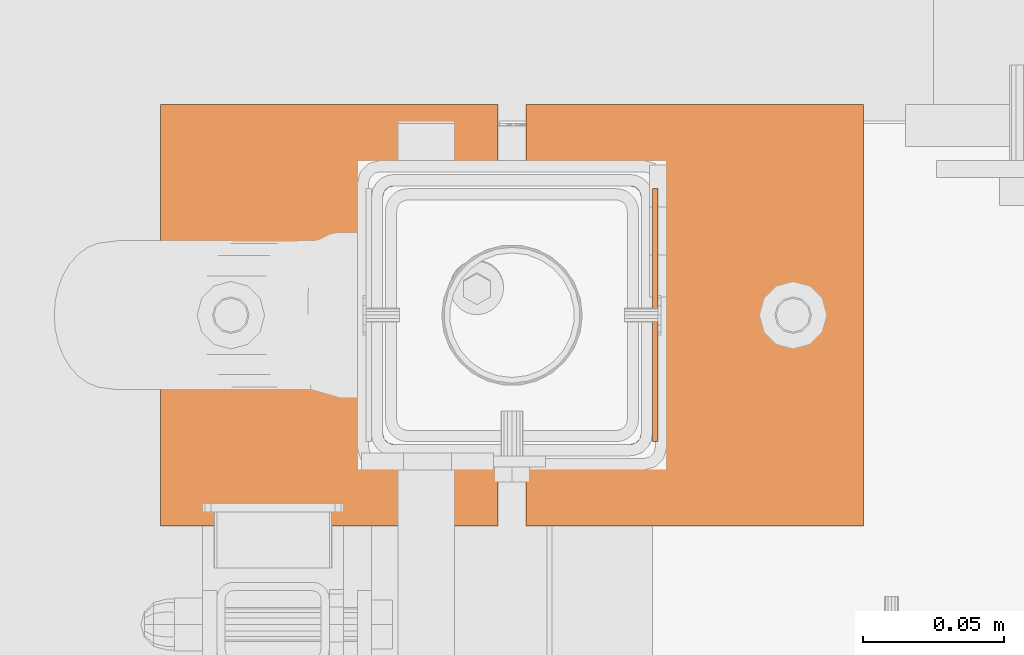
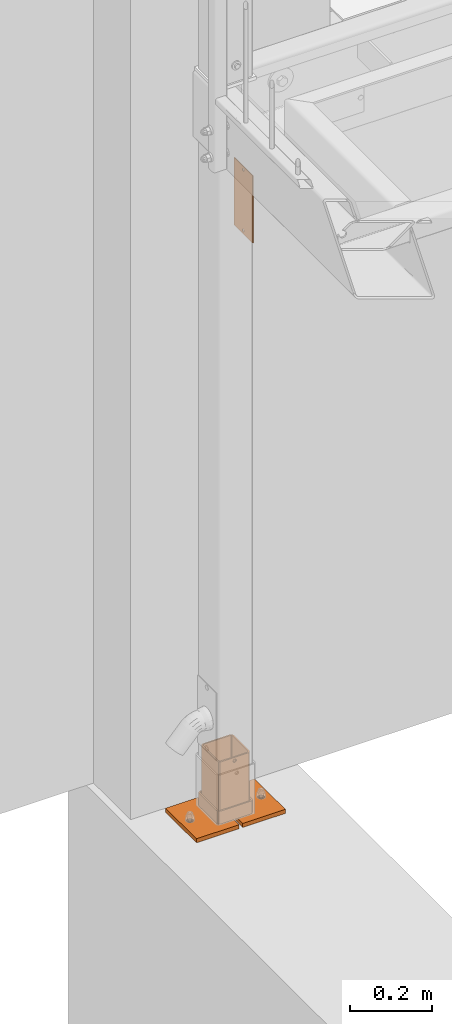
# One storey, part 93 of 116: 3 proxies.
"""IFC2X3 building model written with IfcOpenShell, lengths in millimetres."""

from ifc_helpers import new_model, entity, si_unit, converted_unit, origin_with_axes, place, context, project, spatial, faceted_brep, material, element, save


model = new_model("IFC2X3")

# Units and contexts
model_context = context("Model", 3, precision=1e-09, world=origin_with_axes())
ifc_project = project(units=[si_unit("LENGTHUNIT", "METRE", prefix="MILLI"), si_unit("AREAUNIT", "SQUARE_METRE"), si_unit("VOLUMEUNIT", "CUBIC_METRE"), converted_unit("PLANEANGLEUNIT", "DEGREE", entity("IfcPlaneAngleMeasure", 0.01745329), si_unit("PLANEANGLEUNIT", "RADIAN"), dimensions=[0, 0, 0, 0, 0, 0, 0])], contexts=[model_context])

# Site, building, storey
site_placement = place(None, origin_with_axes())
site = spatial("IfcSite", under=ifc_project, at=site_placement, Name="Site", CompositionType="ELEMENT")
building_placement = place(site_placement, origin_with_axes())
building = spatial("IfcBuilding", under=site, at=building_placement, Name="Struktur 1", CompositionType="ELEMENT")
storey_placement = place(building_placement, origin_with_axes())
storey = spatial("IfcBuildingStorey", under=building, at=storey_placement, Name="Default Storey", CompositionType="ELEMENT", Elevation=0.0)

# Proxies
ifc_material = material(Name="Kein")
proxy_1_placement = place(None, origin_with_axes())
element("IfcBuildingElementProxy", 1, at=proxy_1_placement, inside=storey, material=ifc_material, ObjectType="-", context=model_context, shape_type="Brep", body=[
    faceted_brep([(55293.049134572, 12007.822984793, -2185.0), (55293.049134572, 12007.822984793, -2165.0), (55291.585032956, 12006.358883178, -2165.0), (55291.585032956, 12006.358883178, -2185.0), (55291.049134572, 12011.287086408, -2185.0), (55295.049134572, 12012.358883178, -2185.0), (55379.049134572, 12012.358883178, -2185.0), (55383.049134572, 12011.287086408, -2185.0), (55385.977337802, 12008.358883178, -2185.0), (55387.049134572, 12004.358883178, -2185.0), (55387.049134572, 11920.358883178, -2185.0), (55385.977337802, 11916.358883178, -2185.0), (55383.049134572, 11913.430679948, -2185.0), (55379.049134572, 11912.358883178, -2185.0), (55295.049134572, 11912.358883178, -2185.0), (55291.049134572, 11913.430679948, -2185.0), (55288.120931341, 11916.358883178, -2185.0), (55287.049134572, 11920.358883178, -2185.0), (55287.049134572, 12004.358883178, -2185.0), (55288.120931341, 12008.358883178, -2185.0), (55379.049134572, 12008.358883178, -2185.0), (55295.049134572, 12008.358883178, -2185.0), (55291.049134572, 12004.358883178, -2185.0), (55291.049134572, 11920.358883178, -2185.0), (55291.585032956, 11918.358883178, -2185.0), (55293.049134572, 11916.894781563, -2185.0), (55295.049134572, 11916.358883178, -2185.0), (55379.049134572, 11916.358883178, -2185.0), (55381.049134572, 11916.894781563, -2185.0), (55382.513236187, 11918.358883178, -2185.0), (55383.049134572, 11920.358883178, -2185.0), (55383.049134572, 12004.358883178, -2185.0), (55382.513236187, 12006.358883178, -2185.0), (55381.049134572, 12007.822984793, -2185.0), (55291.049134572, 12011.287086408, -2165.0), (55288.120931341, 12008.358883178, -2165.0), (55287.049134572, 12004.358883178, -2165.0), (55287.049134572, 11920.358883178, -2165.0), (55288.120931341, 11916.358883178, -2165.0), (55291.049134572, 11913.430679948, -2165.0), (55295.049134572, 11912.358883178, -2165.0), (55379.049134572, 11912.358883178, -2165.0), (55383.049134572, 11913.430679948, -2165.0), (55385.977337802, 11916.358883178, -2165.0), (55387.049134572, 11920.358883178, -2165.0), (55387.049134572, 12004.358883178, -2165.0), (55385.977337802, 12008.358883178, -2165.0), (55383.049134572, 12011.287086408, -2165.0), (55379.049134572, 12012.358883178, -2165.0), (55295.049134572, 12012.358883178, -2165.0), (55291.049134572, 12004.358883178, -2165.0), (55295.049134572, 12008.358883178, -2165.0), (55379.049134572, 12008.358883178, -2165.0), (55381.049134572, 12007.822984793, -2165.0), (55382.513236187, 12006.358883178, -2165.0), (55383.049134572, 12004.358883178, -2165.0), (55383.049134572, 11920.358883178, -2165.0), (55382.513236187, 11918.358883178, -2165.0), (55381.049134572, 11916.894781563, -2165.0), (55379.049134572, 11916.358883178, -2165.0), (55295.049134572, 11916.358883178, -2165.0), (55293.049134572, 11916.894781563, -2165.0), (55291.585032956, 11918.358883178, -2165.0), (55291.049134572, 11920.358883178, -2165.0)], [[[0, 1, 2, 3]], [[4, 5, 6, 7, 8, 9, 10, 11, 12, 13, 14, 15, 16, 17, 18, 19], [20, 21, 0, 3, 22, 23, 24, 25, 26, 27, 28, 29, 30, 31, 32, 33]], [[34, 35, 36, 37, 38, 39, 40, 41, 42, 43, 44, 45, 46, 47, 48, 49], [50, 2, 1, 51, 52, 53, 54, 55, 56, 57, 58, 59, 60, 61, 62, 63]], [[34, 4, 19, 35]], [[1, 0, 21, 51]], [[4, 34, 49, 5]], [[35, 19, 18, 36]], [[3, 2, 50, 22]], [[21, 20, 52, 51]], [[49, 48, 6, 5]], [[18, 17, 37, 36]], [[50, 63, 23, 22]], [[52, 20, 33, 53]], [[6, 48, 47, 7]], [[37, 17, 16, 38]], [[23, 63, 62, 24]], [[53, 33, 32, 54]], [[7, 47, 46, 8]], [[38, 16, 15, 39]], [[24, 62, 61, 25]], [[54, 32, 31, 55]], [[25, 61, 60, 26]], [[8, 46, 45, 9]], [[39, 15, 14, 40]], [[60, 59, 27, 26]], [[31, 30, 56, 55]], [[45, 44, 10, 9]], [[58, 28, 27, 59]], [[14, 13, 41, 40]], [[28, 58, 57, 29]], [[29, 57, 56, 30]], [[10, 44, 43, 11]], [[41, 13, 12, 42]], [[11, 43, 42, 12]]]),
    faceted_brep([(55293.049134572, 12007.822984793, -2165.0), (55293.049134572, 12007.822984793, -2155.0), (55291.585032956, 12006.358883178, -2155.0), (55291.585032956, 12006.358883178, -2165.0), (55291.049134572, 12011.287086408, -2165.0), (55295.049134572, 12012.358883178, -2165.0), (55379.049134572, 12012.358883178, -2165.0), (55383.049134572, 12011.287086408, -2165.0), (55385.977337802, 12008.358883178, -2165.0), (55387.049134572, 12004.358883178, -2165.0), (55387.049134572, 11920.358883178, -2165.0), (55385.977337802, 11916.358883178, -2165.0), (55383.049134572, 11913.430679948, -2165.0), (55379.049134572, 11912.358883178, -2165.0), (55295.049134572, 11912.358883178, -2165.0), (55291.049134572, 11913.430679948, -2165.0), (55288.120931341, 11916.358883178, -2165.0), (55287.049134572, 11920.358883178, -2165.0), (55287.049134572, 12004.358883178, -2165.0), (55288.120931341, 12008.358883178, -2165.0), (55379.049134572, 12008.358883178, -2165.0), (55295.049134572, 12008.358883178, -2165.0), (55291.049134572, 12004.358883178, -2165.0), (55291.049134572, 11920.358883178, -2165.0), (55291.585032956, 11918.358883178, -2165.0), (55293.049134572, 11916.894781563, -2165.0), (55295.049134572, 11916.358883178, -2165.0), (55379.049134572, 11916.358883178, -2165.0), (55381.049134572, 11916.894781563, -2165.0), (55382.513236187, 11918.358883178, -2165.0), (55383.049134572, 11920.358883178, -2165.0), (55383.049134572, 12004.358883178, -2165.0), (55382.513236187, 12006.358883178, -2165.0), (55381.049134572, 12007.822984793, -2165.0), (55291.049134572, 12011.287086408, -2155.0), (55288.120931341, 12008.358883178, -2155.0), (55287.049134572, 12004.358883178, -2155.0), (55287.049134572, 11920.358883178, -2155.0), (55288.120931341, 11916.358883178, -2155.0), (55291.049134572, 11913.430679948, -2155.0), (55295.049134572, 11912.358883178, -2155.0), (55379.049134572, 11912.358883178, -2155.0), (55383.049134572, 11913.430679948, -2155.0), (55385.977337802, 11916.358883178, -2155.0), (55387.049134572, 11920.358883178, -2155.0), (55387.049134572, 12004.358883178, -2155.0), (55385.977337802, 12008.358883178, -2155.0), (55383.049134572, 12011.287086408, -2155.0), (55379.049134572, 12012.358883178, -2155.0), (55295.049134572, 12012.358883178, -2155.0), (55291.049134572, 12004.358883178, -2155.0), (55295.049134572, 12008.358883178, -2155.0), (55379.049134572, 12008.358883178, -2155.0), (55381.049134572, 12007.822984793, -2155.0), (55382.513236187, 12006.358883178, -2155.0), (55383.049134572, 12004.358883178, -2155.0), (55383.049134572, 11920.358883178, -2155.0), (55382.513236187, 11918.358883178, -2155.0), (55381.049134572, 11916.894781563, -2155.0), (55379.049134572, 11916.358883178, -2155.0), (55295.049134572, 11916.358883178, -2155.0), (55293.049134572, 11916.894781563, -2155.0), (55291.585032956, 11918.358883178, -2155.0), (55291.049134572, 11920.358883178, -2155.0)], [[[0, 1, 2, 3]], [[4, 5, 6, 7, 8, 9, 10, 11, 12, 13, 14, 15, 16, 17, 18, 19], [20, 21, 0, 3, 22, 23, 24, 25, 26, 27, 28, 29, 30, 31, 32, 33]], [[34, 35, 36, 37, 38, 39, 40, 41, 42, 43, 44, 45, 46, 47, 48, 49], [50, 2, 1, 51, 52, 53, 54, 55, 56, 57, 58, 59, 60, 61, 62, 63]], [[34, 4, 19, 35]], [[1, 0, 21, 51]], [[4, 34, 49, 5]], [[35, 19, 18, 36]], [[3, 2, 50, 22]], [[21, 20, 52, 51]], [[49, 48, 6, 5]], [[18, 17, 37, 36]], [[50, 63, 23, 22]], [[52, 20, 33, 53]], [[6, 48, 47, 7]], [[37, 17, 16, 38]], [[23, 63, 62, 24]], [[53, 33, 32, 54]], [[7, 47, 46, 8]], [[38, 16, 15, 39]], [[24, 62, 61, 25]], [[54, 32, 31, 55]], [[25, 61, 60, 26]], [[8, 46, 45, 9]], [[39, 15, 14, 40]], [[60, 59, 27, 26]], [[31, 30, 56, 55]], [[45, 44, 10, 9]], [[58, 28, 27, 59]], [[14, 13, 41, 40]], [[28, 58, 57, 29]], [[29, 57, 56, 30]], [[10, 44, 43, 11]], [[41, 13, 12, 42]], [[11, 43, 42, 12]]]),
    faceted_brep([(55293.049134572, 12007.822984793, -2155.0), (55293.049134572, 12007.822984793, -2150.0), (55291.585032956, 12006.358883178, -2150.0), (55291.585032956, 12006.358883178, -2155.0), (55291.049134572, 12011.287086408, -2155.0), (55295.049134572, 12012.358883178, -2155.0), (55379.049134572, 12012.358883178, -2155.0), (55383.049134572, 12011.287086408, -2155.0), (55385.977337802, 12008.358883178, -2155.0), (55387.049134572, 12004.358883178, -2155.0), (55387.049134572, 11920.358883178, -2155.0), (55385.977337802, 11916.358883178, -2155.0), (55383.049134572, 11913.430679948, -2155.0), (55379.049134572, 11912.358883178, -2155.0), (55295.049134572, 11912.358883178, -2155.0), (55291.049134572, 11913.430679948, -2155.0), (55288.120931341, 11916.358883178, -2155.0), (55287.049134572, 11920.358883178, -2155.0), (55287.049134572, 12004.358883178, -2155.0), (55288.120931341, 12008.358883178, -2155.0), (55379.049134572, 12008.358883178, -2155.0), (55295.049134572, 12008.358883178, -2155.0), (55291.049134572, 12004.358883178, -2155.0), (55291.049134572, 11920.358883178, -2155.0), (55291.585032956, 11918.358883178, -2155.0), (55293.049134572, 11916.894781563, -2155.0), (55295.049134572, 11916.358883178, -2155.0), (55379.049134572, 11916.358883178, -2155.0), (55381.049134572, 11916.894781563, -2155.0), (55382.513236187, 11918.358883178, -2155.0), (55383.049134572, 11920.358883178, -2155.0), (55383.049134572, 12004.358883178, -2155.0), (55382.513236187, 12006.358883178, -2155.0), (55381.049134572, 12007.822984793, -2155.0), (55291.049134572, 12011.287086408, -2150.0), (55288.120931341, 12008.358883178, -2150.0), (55287.049134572, 12004.358883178, -2150.0), (55287.049134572, 11920.358883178, -2150.0), (55288.120931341, 11916.358883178, -2150.0), (55291.049134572, 11913.430679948, -2150.0), (55295.049134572, 11912.358883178, -2150.0), (55379.049134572, 11912.358883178, -2150.0), (55383.049134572, 11913.430679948, -2150.0), (55385.977337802, 11916.358883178, -2150.0), (55387.049134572, 11920.358883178, -2150.0), (55387.049134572, 12004.358883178, -2150.0), (55385.977337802, 12008.358883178, -2150.0), (55383.049134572, 12011.287086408, -2150.0), (55379.049134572, 12012.358883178, -2150.0), (55295.049134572, 12012.358883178, -2150.0), (55291.049134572, 12004.358883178, -2150.0), (55295.049134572, 12008.358883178, -2150.0), (55379.049134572, 12008.358883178, -2150.0), (55381.049134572, 12007.822984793, -2150.0), (55382.513236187, 12006.358883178, -2150.0), (55383.049134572, 12004.358883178, -2150.0), (55383.049134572, 11920.358883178, -2150.0), (55382.513236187, 11918.358883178, -2150.0), (55381.049134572, 11916.894781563, -2150.0), (55379.049134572, 11916.358883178, -2150.0), (55295.049134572, 11916.358883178, -2150.0), (55293.049134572, 11916.894781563, -2150.0), (55291.585032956, 11918.358883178, -2150.0), (55291.049134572, 11920.358883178, -2150.0)], [[[0, 1, 2, 3]], [[4, 5, 6, 7, 8, 9, 10, 11, 12, 13, 14, 15, 16, 17, 18, 19], [20, 21, 0, 3, 22, 23, 24, 25, 26, 27, 28, 29, 30, 31, 32, 33]], [[34, 35, 36, 37, 38, 39, 40, 41, 42, 43, 44, 45, 46, 47, 48, 49], [50, 2, 1, 51, 52, 53, 54, 55, 56, 57, 58, 59, 60, 61, 62, 63]], [[34, 4, 19, 35]], [[1, 0, 21, 51]], [[4, 34, 49, 5]], [[35, 19, 18, 36]], [[3, 2, 50, 22]], [[21, 20, 52, 51]], [[49, 48, 6, 5]], [[18, 17, 37, 36]], [[50, 63, 23, 22]], [[52, 20, 33, 53]], [[6, 48, 47, 7]], [[37, 17, 16, 38]], [[23, 63, 62, 24]], [[53, 33, 32, 54]], [[7, 47, 46, 8]], [[38, 16, 15, 39]], [[24, 62, 61, 25]], [[54, 32, 31, 55]], [[25, 61, 60, 26]], [[8, 46, 45, 9]], [[39, 15, 14, 40]], [[60, 59, 27, 26]], [[31, 30, 56, 55]], [[45, 44, 10, 9]], [[58, 28, 27, 59]], [[14, 13, 41, 40]], [[28, 58, 57, 29]], [[29, 57, 56, 30]], [[10, 44, 43, 11]], [[41, 13, 12, 42]], [[11, 43, 42, 12]]]),
    faceted_brep([(55293.049134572, 12007.822984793, -2150.0), (55293.049134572, 12007.822984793, -2147.0), (55291.585032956, 12006.358883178, -2147.0), (55291.585032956, 12006.358883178, -2150.0), (55291.049134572, 12011.287086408, -2150.0), (55295.049134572, 12012.358883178, -2150.0), (55379.049134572, 12012.358883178, -2150.0), (55383.049134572, 12011.287086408, -2150.0), (55385.977337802, 12008.358883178, -2150.0), (55387.049134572, 12004.358883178, -2150.0), (55387.049134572, 11920.358883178, -2150.0), (55385.977337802, 11916.358883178, -2150.0), (55383.049134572, 11913.430679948, -2150.0), (55379.049134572, 11912.358883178, -2150.0), (55295.049134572, 11912.358883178, -2150.0), (55291.049134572, 11913.430679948, -2150.0), (55288.120931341, 11916.358883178, -2150.0), (55287.049134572, 11920.358883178, -2150.0), (55287.049134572, 12004.358883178, -2150.0), (55288.120931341, 12008.358883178, -2150.0), (55379.049134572, 12008.358883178, -2150.0), (55295.049134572, 12008.358883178, -2150.0), (55291.049134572, 12004.358883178, -2150.0), (55291.049134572, 11920.358883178, -2150.0), (55291.585032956, 11918.358883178, -2150.0), (55293.049134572, 11916.894781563, -2150.0), (55295.049134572, 11916.358883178, -2150.0), (55379.049134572, 11916.358883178, -2150.0), (55381.049134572, 11916.894781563, -2150.0), (55382.513236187, 11918.358883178, -2150.0), (55383.049134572, 11920.358883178, -2150.0), (55383.049134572, 12004.358883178, -2150.0), (55382.513236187, 12006.358883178, -2150.0), (55381.049134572, 12007.822984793, -2150.0), (55291.049134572, 12011.287086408, -2147.0), (55288.120931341, 12008.358883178, -2147.0), (55287.049134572, 12004.358883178, -2147.0), (55287.049134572, 11920.358883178, -2147.0), (55288.120931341, 11916.358883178, -2147.0), (55291.049134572, 11913.430679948, -2147.0), (55295.049134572, 11912.358883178, -2147.0), (55379.049134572, 11912.358883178, -2147.0), (55383.049134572, 11913.430679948, -2147.0), (55385.977337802, 11916.358883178, -2147.0), (55387.049134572, 11920.358883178, -2147.0), (55387.049134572, 12004.358883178, -2147.0), (55385.977337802, 12008.358883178, -2147.0), (55383.049134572, 12011.287086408, -2147.0), (55379.049134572, 12012.358883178, -2147.0), (55295.049134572, 12012.358883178, -2147.0), (55291.049134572, 12004.358883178, -2147.0), (55295.049134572, 12008.358883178, -2147.0), (55379.049134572, 12008.358883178, -2147.0), (55381.049134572, 12007.822984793, -2147.0), (55382.513236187, 12006.358883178, -2147.0), (55383.049134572, 12004.358883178, -2147.0), (55383.049134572, 11920.358883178, -2147.0), (55382.513236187, 11918.358883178, -2147.0), (55381.049134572, 11916.894781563, -2147.0), (55379.049134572, 11916.358883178, -2147.0), (55295.049134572, 11916.358883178, -2147.0), (55293.049134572, 11916.894781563, -2147.0), (55291.585032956, 11918.358883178, -2147.0), (55291.049134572, 11920.358883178, -2147.0)], [[[0, 1, 2, 3]], [[4, 5, 6, 7, 8, 9, 10, 11, 12, 13, 14, 15, 16, 17, 18, 19], [20, 21, 0, 3, 22, 23, 24, 25, 26, 27, 28, 29, 30, 31, 32, 33]], [[34, 35, 36, 37, 38, 39, 40, 41, 42, 43, 44, 45, 46, 47, 48, 49], [50, 2, 1, 51, 52, 53, 54, 55, 56, 57, 58, 59, 60, 61, 62, 63]], [[34, 4, 19, 35]], [[1, 0, 21, 51]], [[4, 34, 49, 5]], [[35, 19, 18, 36]], [[3, 2, 50, 22]], [[21, 20, 52, 51]], [[49, 48, 6, 5]], [[18, 17, 37, 36]], [[50, 63, 23, 22]], [[52, 20, 33, 53]], [[6, 48, 47, 7]], [[37, 17, 16, 38]], [[23, 63, 62, 24]], [[53, 33, 32, 54]], [[7, 47, 46, 8]], [[38, 16, 15, 39]], [[24, 62, 61, 25]], [[54, 32, 31, 55]], [[25, 61, 60, 26]], [[8, 46, 45, 9]], [[39, 15, 14, 40]], [[60, 59, 27, 26]], [[31, 30, 56, 55]], [[45, 44, 10, 9]], [[58, 28, 27, 59]], [[14, 13, 41, 40]], [[28, 58, 57, 29]], [[29, 57, 56, 30]], [[10, 44, 43, 11]], [[41, 13, 12, 42]], [[11, 43, 42, 12]]]),
])
proxy_2_placement = place(None, origin_with_axes())
element("IfcBuildingElementProxy", 2, at=proxy_2_placement, inside=storey, material=ifc_material, ObjectType="-", context=model_context, shape_type="Brep", body=[
    faceted_brep([(55229.048134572, 11962.358883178, -2185.0), (55229.048134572, 11962.358883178, -2197.0), (55230.120065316, 11966.359383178, -2197.0), (55230.120065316, 11966.359383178, -2185.0), (55233.048634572, 11969.287952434, -2197.0), (55233.048634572, 11969.287952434, -2185.0), (55230.120065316, 11958.358383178, -2185.0), (55230.120065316, 11958.358383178, -2197.0), (55233.048634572, 11955.429813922, -2185.0), (55233.048634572, 11955.429813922, -2197.0), (55212.049134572, 11887.358883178, -2185.0), (55332.049134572, 11887.358883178, -2185.0), (55332.049134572, 12037.358883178, -2185.0), (55212.049134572, 12037.358883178, -2185.0), (55237.049134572, 11970.359883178, -2185.0), (55241.049634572, 11969.287952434, -2185.0), (55243.978203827, 11966.359383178, -2185.0), (55245.050134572, 11962.358883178, -2185.0), (55243.978203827, 11958.358383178, -2185.0), (55241.049634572, 11955.429813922, -2185.0), (55237.049134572, 11954.357883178, -2185.0), (55237.049134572, 11970.359883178, -2197.0), (55212.049134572, 12037.358883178, -2197.0), (55332.049134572, 12037.358883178, -2197.0), (55332.049134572, 11887.358883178, -2197.0), (55212.049134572, 11887.358883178, -2197.0), (55241.049634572, 11969.287952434, -2197.0), (55237.049134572, 11954.357883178, -2197.0), (55241.049634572, 11955.429813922, -2197.0), (55243.978203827, 11958.358383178, -2197.0), (55245.050134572, 11962.358883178, -2197.0), (55243.978203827, 11966.359383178, -2197.0)], [[[0, 1, 2, 3]], [[3, 2, 4, 5]], [[1, 0, 6, 7]], [[7, 6, 8, 9]], [[10, 11, 12, 13], [8, 6, 0, 3, 5, 14, 15, 16, 17, 18, 19, 20]], [[5, 4, 21, 14]], [[22, 23, 24, 25], [26, 21, 4, 2, 1, 7, 9, 27, 28, 29, 30, 31]], [[9, 8, 20, 27]], [[14, 21, 26, 15]], [[10, 13, 22, 25]], [[27, 20, 19, 28]], [[25, 24, 11, 10]], [[13, 12, 23, 22]], [[15, 26, 31, 16]], [[24, 23, 12, 11]], [[28, 19, 18, 29]], [[16, 31, 30, 17]], [[29, 18, 17, 30]]]),
    faceted_brep([(55429.048134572, 11962.358883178, -2185.0), (55429.048134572, 11962.358883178, -2197.0), (55430.120065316, 11966.359383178, -2197.0), (55430.120065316, 11966.359383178, -2185.0), (55433.048634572, 11969.287952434, -2197.0), (55433.048634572, 11969.287952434, -2185.0), (55342.049134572, 11887.358883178, -2185.0), (55462.049134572, 11887.358883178, -2185.0), (55462.049134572, 12037.358883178, -2185.0), (55342.049134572, 12037.358883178, -2185.0), (55433.048634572, 11955.429813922, -2185.0), (55430.120065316, 11958.358383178, -2185.0), (55437.049134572, 11970.359883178, -2185.0), (55441.049634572, 11969.287952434, -2185.0), (55443.978203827, 11966.359383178, -2185.0), (55445.050134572, 11962.358883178, -2185.0), (55443.978203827, 11958.358383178, -2185.0), (55441.049634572, 11955.429813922, -2185.0), (55437.049134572, 11954.357883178, -2185.0), (55430.120065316, 11958.358383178, -2197.0), (55437.049134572, 11970.359883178, -2197.0), (55342.049134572, 12037.358883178, -2197.0), (55462.049134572, 12037.358883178, -2197.0), (55462.049134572, 11887.358883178, -2197.0), (55342.049134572, 11887.358883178, -2197.0), (55433.048634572, 11955.429813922, -2197.0), (55437.049134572, 11954.357883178, -2197.0), (55441.049634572, 11955.429813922, -2197.0), (55443.978203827, 11958.358383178, -2197.0), (55445.050134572, 11962.358883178, -2197.0), (55443.978203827, 11966.359383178, -2197.0), (55441.049634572, 11969.287952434, -2197.0)], [[[0, 1, 2, 3]], [[3, 2, 4, 5]], [[6, 7, 8, 9], [10, 11, 0, 3, 5, 12, 13, 14, 15, 16, 17, 18]], [[1, 0, 11, 19]], [[5, 4, 20, 12]], [[21, 22, 23, 24], [20, 4, 2, 1, 19, 25, 26, 27, 28, 29, 30, 31]], [[19, 11, 10, 25]], [[12, 20, 31, 13]], [[21, 24, 6, 9]], [[9, 8, 22, 21]], [[24, 23, 7, 6]], [[25, 10, 18, 26]], [[13, 31, 30, 14]], [[26, 18, 17, 27]], [[8, 7, 23, 22]], [[14, 30, 29, 15]], [[27, 17, 16, 28]], [[15, 29, 28, 16]]]),
    faceted_brep([(55293.120931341, 12003.358883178, -2185.0), (55293.120931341, 12003.358883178, -2005.0), (55296.049134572, 12006.287086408, -2005.0), (55296.049134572, 12006.287086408, -2185.0), (55292.049134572, 11999.358883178, -2005.0), (55292.049134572, 11925.358883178, -2005.0), (55293.120931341, 11921.358883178, -2005.0), (55296.049134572, 11918.430679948, -2005.0), (55300.049134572, 11917.358883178, -2005.0), (55374.049134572, 11917.358883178, -2005.0), (55378.049134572, 11918.430679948, -2005.0), (55380.977337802, 11921.358883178, -2005.0), (55382.049134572, 11925.358883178, -2005.0), (55382.049134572, 11999.358883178, -2005.0), (55380.977337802, 12003.358883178, -2005.0), (55378.049134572, 12006.287086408, -2005.0), (55374.049134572, 12007.358883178, -2005.0), (55300.049134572, 12007.358883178, -2005.0), (55296.049134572, 11999.358883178, -2005.0), (55296.585032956, 12001.358883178, -2005.0), (55298.049134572, 12002.822984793, -2005.0), (55300.049134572, 12003.358883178, -2005.0), (55374.049134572, 12003.358883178, -2005.0), (55376.049134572, 12002.822984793, -2005.0), (55377.513236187, 12001.358883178, -2005.0), (55378.049134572, 11999.358883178, -2005.0), (55378.049134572, 11925.358883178, -2005.0), (55377.513236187, 11923.358883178, -2005.0), (55376.049134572, 11921.894781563, -2005.0), (55374.049134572, 11921.358883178, -2005.0), (55300.049134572, 11921.358883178, -2005.0), (55298.049134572, 11921.894781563, -2005.0), (55296.585032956, 11923.358883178, -2005.0), (55296.049134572, 11925.358883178, -2005.0), (55298.049134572, 12002.822984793, -2185.0), (55296.585032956, 12001.358883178, -2185.0), (55292.049134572, 11925.358883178, -2185.0), (55292.049134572, 11999.358883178, -2185.0), (55300.049134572, 12007.358883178, -2185.0), (55374.049134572, 12007.358883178, -2185.0), (55378.049134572, 12006.287086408, -2185.0), (55380.977337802, 12003.358883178, -2185.0), (55382.049134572, 11999.358883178, -2185.0), (55382.049134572, 11925.358883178, -2185.0), (55380.977337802, 11921.358883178, -2185.0), (55378.049134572, 11918.430679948, -2185.0), (55374.049134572, 11917.358883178, -2185.0), (55300.049134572, 11917.358883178, -2185.0), (55296.049134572, 11918.430679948, -2185.0), (55293.120931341, 11921.358883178, -2185.0), (55296.049134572, 11999.358883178, -2185.0), (55296.049134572, 11925.358883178, -2185.0), (55296.585032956, 11923.358883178, -2185.0), (55298.049134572, 11921.894781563, -2185.0), (55300.049134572, 11921.358883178, -2185.0), (55374.049134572, 11921.358883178, -2185.0), (55376.049134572, 11921.894781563, -2185.0), (55377.513236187, 11923.358883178, -2185.0), (55378.049134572, 11925.358883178, -2185.0), (55378.049134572, 11999.358883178, -2185.0), (55377.513236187, 12001.358883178, -2185.0), (55376.049134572, 12002.822984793, -2185.0), (55374.049134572, 12003.358883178, -2185.0), (55300.049134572, 12003.358883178, -2185.0), (55332.048134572, 11917.358883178, -2015.0), (55332.048134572, 11921.358883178, -2015.0), (55332.718141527, 11921.358883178, -2012.4995), (55332.718141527, 11917.358883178, -2012.4995), (55332.718141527, 11917.358883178, -2017.5005), (55332.718141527, 11921.358883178, -2017.5005), (55334.548634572, 11921.358883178, -2010.669006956), (55334.548634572, 11917.358883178, -2010.669006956), (55334.548634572, 11917.358883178, -2019.330993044), (55337.049134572, 11917.358883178, -2009.999), (55339.549634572, 11917.358883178, -2010.669006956), (55341.380127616, 11917.358883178, -2012.4995), (55342.050134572, 11917.358883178, -2015.0), (55341.380127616, 11917.358883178, -2017.5005), (55339.549634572, 11917.358883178, -2019.330993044), (55337.049134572, 11917.358883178, -2020.001), (55334.548634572, 11921.358883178, -2019.330993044), (55337.049134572, 11921.358883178, -2020.001), (55339.549634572, 11921.358883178, -2019.330993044), (55341.380127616, 11921.358883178, -2017.5005), (55342.050134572, 11921.358883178, -2015.0), (55341.380127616, 11921.358883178, -2012.4995), (55339.549634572, 11921.358883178, -2010.669006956), (55337.049134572, 11921.358883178, -2009.999)], [[[0, 1, 2, 3]], [[1, 4, 5, 6, 7, 8, 9, 10, 11, 12, 13, 14, 15, 16, 17, 2], [18, 19, 20, 21, 22, 23, 24, 25, 26, 27, 28, 29, 30, 31, 32, 33]], [[34, 20, 19, 35]], [[36, 37, 0, 3, 38, 39, 40, 41, 42, 43, 44, 45, 46, 47, 48, 49], [35, 50, 51, 52, 53, 54, 55, 56, 57, 58, 59, 60, 61, 62, 63, 34]], [[1, 0, 37, 4]], [[20, 34, 63, 21]], [[3, 2, 17, 38]], [[35, 19, 18, 50]], [[37, 36, 5, 4]], [[63, 62, 22, 21]], [[17, 16, 39, 38]], [[18, 33, 51, 50]], [[5, 36, 49, 6]], [[22, 62, 61, 23]], [[39, 16, 15, 40]], [[64, 65, 66, 67]], [[51, 33, 32, 52]], [[65, 64, 68, 69]], [[67, 66, 70, 71]], [[8, 47, 46, 9], [72, 68, 64, 67, 71, 73, 74, 75, 76, 77, 78, 79]], [[6, 49, 48, 7]], [[52, 32, 31, 53]], [[30, 29, 55, 54], [70, 66, 65, 69, 80, 81, 82, 83, 84, 85, 86, 87]], [[23, 61, 60, 24]], [[40, 15, 14, 41]], [[71, 70, 87, 73]], [[73, 87, 86, 74]], [[30, 54, 53, 31]], [[69, 68, 72, 80]], [[74, 86, 85, 75]], [[7, 48, 47, 8]], [[80, 72, 79, 81]], [[81, 79, 78, 82]], [[24, 60, 59, 25]], [[41, 14, 13, 42]], [[75, 85, 84, 76]], [[83, 77, 76, 84]], [[82, 78, 77, 83]], [[59, 58, 26, 25]], [[13, 12, 43, 42]], [[26, 58, 57, 27]], [[55, 29, 28, 56]], [[56, 28, 27, 57]], [[43, 12, 11, 44]], [[9, 46, 45, 10]], [[44, 11, 10, 45]]]),
])
proxy_3_placement = place(None, origin_with_axes())
element("IfcBuildingElementProxy", 3, at=proxy_3_placement, inside=storey, material=ifc_material, ObjectType="-", context=model_context, shape_type="Brep", body=[
    faceted_brep([(55389.049134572, 11966.359883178, -485.0), (55387.049134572, 11966.359883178, -485.0), (55387.049134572, 11965.823850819, -487.0005), (55389.049134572, 11965.823850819, -487.0005), (55387.049134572, 11964.359383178, -488.46496764), (55389.049134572, 11964.359383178, -488.46496764), (55389.049134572, 11965.823850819, -482.9995), (55387.049134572, 11965.823850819, -482.9995), (55389.049134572, 11964.359383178, -481.535032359), (55387.049134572, 11964.359383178, -481.535032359), (55387.049134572, 12007.358883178, -295.0), (55387.049134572, 12007.358883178, -495.0), (55387.049134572, 11917.358883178, -495.0), (55387.049134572, 11917.358883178, -295.0), (55387.049134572, 11964.359383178, -308.46496764), (55387.049134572, 11965.823850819, -307.0005), (55387.049134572, 11966.359883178, -305.0), (55387.049134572, 11965.823850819, -302.9995), (55387.049134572, 11964.359383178, -301.535032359), (55387.049134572, 11962.358883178, -300.999), (55387.049134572, 11960.358383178, -301.535032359), (55387.049134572, 11958.893915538, -302.9995), (55387.049134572, 11958.357883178, -305.0), (55387.049134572, 11958.893915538, -307.0005), (55387.049134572, 11960.358383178, -308.46496764), (55387.049134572, 11962.358883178, -309.001), (55387.049134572, 11962.358883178, -480.999), (55387.049134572, 11960.358383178, -481.535032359), (55387.049134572, 11958.893915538, -482.9995), (55387.049134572, 11958.357883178, -485.0), (55387.049134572, 11958.893915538, -487.0005), (55387.049134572, 11960.358383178, -488.46496764), (55387.049134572, 11962.358883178, -489.001), (55389.049134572, 11965.823850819, -307.0005), (55389.049134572, 11964.359383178, -308.46496764), (55389.049134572, 12007.358883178, -295.0), (55389.049134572, 11917.358883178, -295.0), (55389.049134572, 11917.358883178, -495.0), (55389.049134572, 12007.358883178, -495.0), (55389.049134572, 11962.358883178, -489.001), (55389.049134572, 11960.358383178, -488.46496764), (55389.049134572, 11958.893915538, -487.0005), (55389.049134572, 11958.357883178, -485.0), (55389.049134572, 11958.893915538, -482.9995), (55389.049134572, 11960.358383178, -481.535032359), (55389.049134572, 11962.358883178, -480.999), (55389.049134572, 11958.893915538, -307.0005), (55389.049134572, 11958.357883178, -305.0), (55389.049134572, 11958.893915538, -302.9995), (55389.049134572, 11960.358383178, -301.535032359), (55389.049134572, 11962.358883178, -300.999), (55389.049134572, 11964.359383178, -301.535032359), (55389.049134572, 11965.823850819, -302.9995), (55389.049134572, 11966.359883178, -305.0), (55389.049134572, 11962.358883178, -309.001), (55389.049134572, 11960.358383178, -308.46496764)], [[[0, 1, 2, 3]], [[3, 2, 4, 5]], [[1, 0, 6, 7]], [[7, 6, 8, 9]], [[10, 11, 12, 13], [14, 15, 16, 17, 18, 19, 20, 21, 22, 23, 24, 25], [1, 7, 9, 26, 27, 28, 29, 30, 31, 32, 4, 2]], [[33, 15, 14, 34]], [[35, 36, 37, 38], [0, 3, 5, 39, 40, 41, 42, 43, 44, 45, 8, 6], [46, 47, 48, 49, 50, 51, 52, 53, 33, 34, 54, 55]], [[15, 33, 53, 16]], [[5, 4, 32, 39]], [[9, 8, 45, 26]], [[16, 53, 52, 17]], [[39, 32, 31, 40]], [[34, 14, 25, 54]], [[17, 52, 51, 18]], [[11, 10, 35, 38]], [[40, 31, 30, 41]], [[26, 45, 44, 27]], [[18, 51, 50, 19]], [[38, 37, 12, 11]], [[41, 30, 29, 42]], [[28, 43, 42, 29]], [[27, 44, 43, 28]], [[54, 25, 24, 55]], [[10, 13, 36, 35]], [[13, 12, 37, 36]], [[19, 50, 49, 20]], [[55, 24, 23, 46]], [[20, 49, 48, 21]], [[46, 23, 22, 47]], [[21, 48, 47, 22]]]),
])

save(model, "model.ifc")
